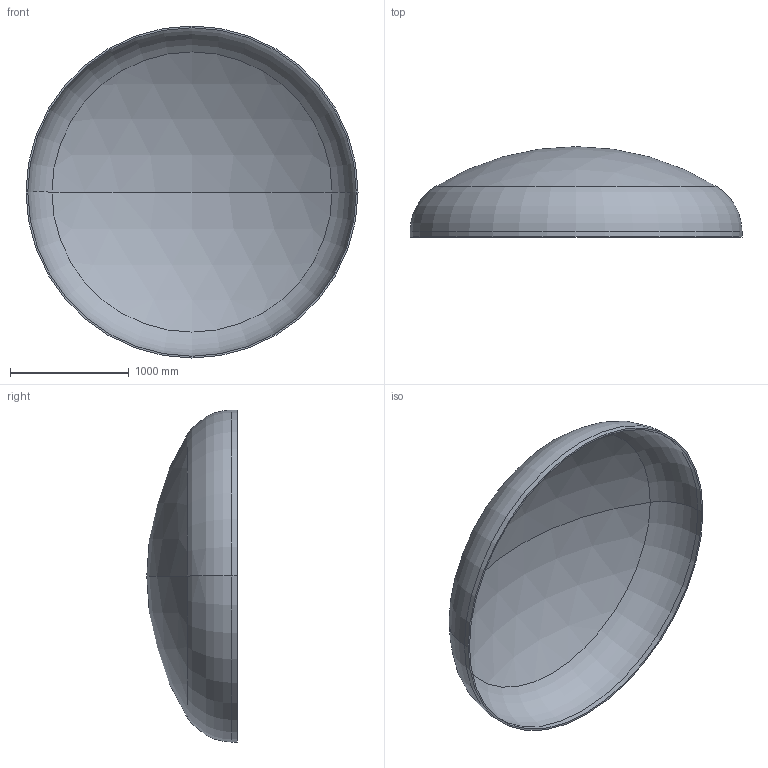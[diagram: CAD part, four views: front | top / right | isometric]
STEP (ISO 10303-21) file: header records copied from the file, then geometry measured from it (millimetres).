
FILE_DESCRIPTION (( 'STEP AP203' ), '1' );
FILE_NAME ('DIN 28013 Korbbogenform_-_Boden DIN 28013 - 2800 x 45 - I - s=15.step', '2016-07-01T16:44:02', ( '' ), ( '' ), 'SwSTEP 2.0', 'SolidWorks 2013', '' );
FILE_SCHEMA (( 'CONFIG_CONTROL_DESIGN' ));
Length unit declared in the file: millimetre
Products named in the file (1): DIN 28013 Korbbogenform_-_Boden DIN 28013 - 2800 x 45 - I - s=15
Bounding box: 2800 x 762.45 x 2800 mm (x, y, z)
Volume: 132859158.7 mm3; surface area: 17846258.8 mm2
Topology: 1 solids, 1 shells, 13 faces, 24 edges, 14 vertices
Faces by surface type: torus 4, cylinder 4, sphere 4, plane 1
Entity records: 407 total; most frequent: DIRECTION 72, CARTESIAN_POINT 52, ORIENTED_EDGE 48, AXIS2_PLACEMENT_3D 34, EDGE_CURVE 24, CIRCLE 20, VERTEX_POINT 14, EDGE_LOOP 14
